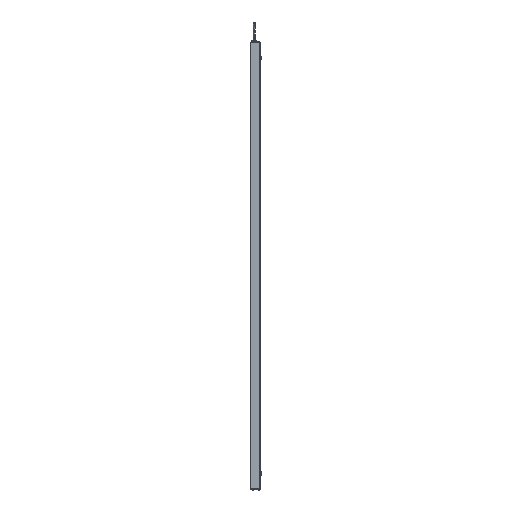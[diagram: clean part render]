
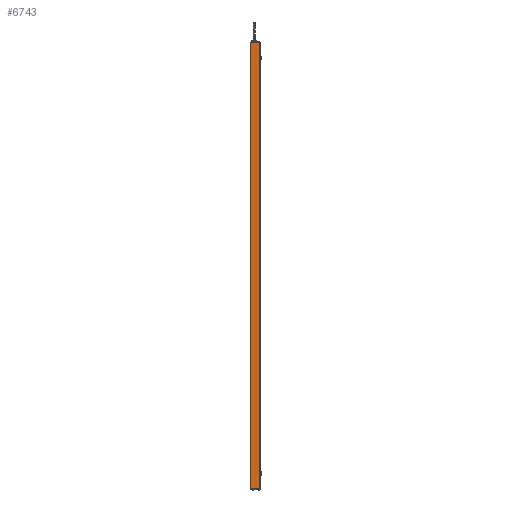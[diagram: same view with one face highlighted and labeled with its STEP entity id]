
A CAD part, left-side view. The second image highlights one B-rep face of the part: STEP entity #6743.
In plain terms, the highlighted planar face has unit normal (-1, 0, 0).
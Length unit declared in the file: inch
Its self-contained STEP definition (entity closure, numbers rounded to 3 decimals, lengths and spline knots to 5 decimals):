
#557 = EDGE_LOOP ( 'NONE', ( #16789, #15909, #16798, #9923 ) ) ;
#707 = EDGE_CURVE ( 'NONE', #3614, #1668, #11095, .T. ) ;
#1668 = VERTEX_POINT ( 'NONE', #4210 ) ;
#1720 = CARTESIAN_POINT ( 'NONE',  ( -0.665, 1.105, 25.24 ) ) ;
#2207 = DIRECTION ( 'NONE',  ( 0., -1., 0. ) ) ;
#2498 = LINE ( 'NONE', #11463, #12042 ) ;
#2796 = CARTESIAN_POINT ( 'NONE',  ( -0.665, 0., -25.24 ) ) ;
#2926 = VECTOR ( 'NONE', #5826, 39.37008 ) ;
#3116 = VECTOR ( 'NONE', #2207, 39.37008 ) ;
#3614 = VERTEX_POINT ( 'NONE', #12896 ) ;
#3893 = FACE_OUTER_BOUND ( 'NONE', #557, .T. ) ;
#4210 = CARTESIAN_POINT ( 'NONE',  ( -0.665, 0.015, 25.24 ) ) ;
#4248 = CARTESIAN_POINT ( 'NONE',  ( -0.665, 0.015, 25.24 ) ) ;
#5280 = CARTESIAN_POINT ( 'NONE',  ( -0.665, 1.105, -25.24 ) ) ;
#5826 = DIRECTION ( 'NONE',  ( 0., -1., 0. ) ) ;
#6730 = AXIS2_PLACEMENT_3D ( 'NONE', #17194, #18766, #12919 ) ;
#6743 = ADVANCED_FACE ( 'NONE', ( #3893 ), #9841, .F. ) ;
#7623 = VERTEX_POINT ( 'NONE', #1720 ) ;
#8513 = DIRECTION ( 'NONE',  ( 0., 0., -1. ) ) ;
#9841 = PLANE ( 'NONE',  #6730 ) ;
#9923 = ORIENTED_EDGE ( 'NONE', *, *, #707, .T. ) ;
#10182 = VECTOR ( 'NONE', #11405, 39.37008 ) ;
#10225 = LINE ( 'NONE', #2796, #2926 ) ;
#11095 = LINE ( 'NONE', #4248, #10182 ) ;
#11405 = DIRECTION ( 'NONE',  ( 0., 0., 1. ) ) ;
#11463 = CARTESIAN_POINT ( 'NONE',  ( -0.665, 1.105, 25.24 ) ) ;
#12042 = VECTOR ( 'NONE', #8513, 39.37008 ) ;
#12269 = LINE ( 'NONE', #18104, #3116 ) ;
#12896 = CARTESIAN_POINT ( 'NONE',  ( -0.665, 0.015, -25.24 ) ) ;
#12919 = DIRECTION ( 'NONE',  ( 0., 0., -1. ) ) ;
#15909 = ORIENTED_EDGE ( 'NONE', *, *, #16493, .T. ) ;
#16493 = EDGE_CURVE ( 'NONE', #7623, #18505, #2498, .T. ) ;
#16496 = EDGE_CURVE ( 'NONE', #18505, #3614, #10225, .T. ) ;
#16789 = ORIENTED_EDGE ( 'NONE', *, *, #17313, .F. ) ;
#16798 = ORIENTED_EDGE ( 'NONE', *, *, #16496, .T. ) ;
#17194 = CARTESIAN_POINT ( 'NONE',  ( -0.665, 0., 25.24 ) ) ;
#17313 = EDGE_CURVE ( 'NONE', #7623, #1668, #12269, .T. ) ;
#18104 = CARTESIAN_POINT ( 'NONE',  ( -0.665, 0., 25.24 ) ) ;
#18505 = VERTEX_POINT ( 'NONE', #5280 ) ;
#18766 = DIRECTION ( 'NONE',  ( 1., 0., 0. ) ) ;
